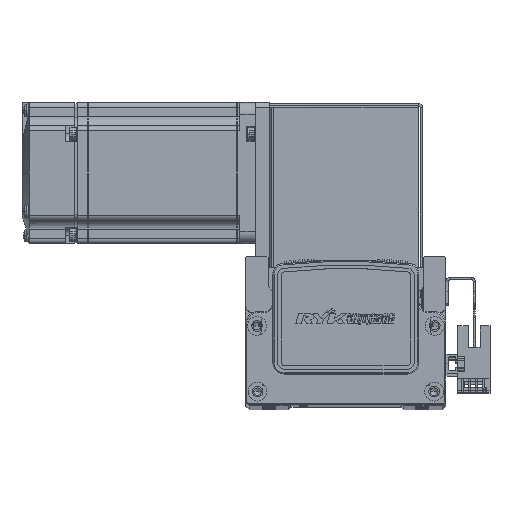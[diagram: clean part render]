
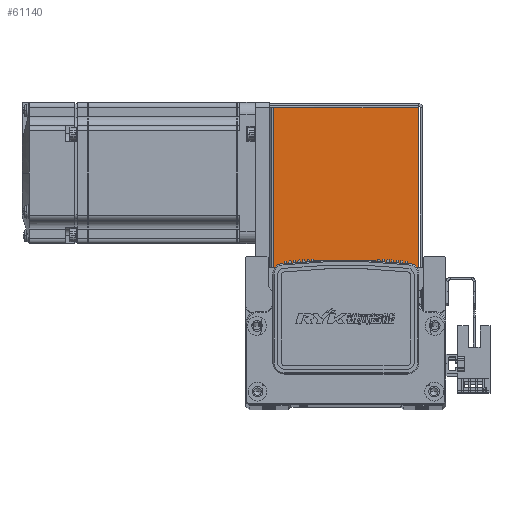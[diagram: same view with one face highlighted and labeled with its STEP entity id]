
A CAD part, top view. The second image highlights one B-rep face of the part: STEP entity #61140.
In plain terms, the highlighted planar face has unit normal (0, 0, 1).
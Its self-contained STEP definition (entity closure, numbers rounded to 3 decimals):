
#1564 = VERTEX_POINT ( 'NONE', #4624 ) ;
#1677 = VERTEX_POINT ( 'NONE', #4829 ) ;
#1679 = VERTEX_POINT ( 'NONE', #4818 ) ;
#1684 = VERTEX_POINT ( 'NONE', #4798 ) ;
#4624 = CARTESIAN_POINT ( 'NONE',  ( 30.763, 0.737, 35. ) ) ;
#4798 = CARTESIAN_POINT ( 'NONE',  ( -30.793, 68.5, 35. ) ) ;
#4818 = CARTESIAN_POINT ( 'NONE',  ( 30.763, 68.5, 35. ) ) ;
#4829 = CARTESIAN_POINT ( 'NONE',  ( -30.793, 0.737, 35. ) ) ;
#9490 = EDGE_LOOP ( 'NONE', ( #17459, #17514, #17432, #17482 ) ) ;
#11764 = FACE_OUTER_BOUND ( 'NONE', #9490, .T. ) ;
#15515 = DIRECTION ( 'NONE',  ( -1., 0., 0. ) ) ;
#15516 = CARTESIAN_POINT ( 'NONE',  ( 0., 0., 35. ) ) ;
#15558 = PLANE ( 'NONE',  #38018 ) ;
#15571 = DIRECTION ( 'NONE',  ( 0., 0., -1. ) ) ;
#17432 = ORIENTED_EDGE ( 'NONE', *, *, #36005, .F. ) ;
#17459 = ORIENTED_EDGE ( 'NONE', *, *, #35986, .T. ) ;
#17482 = ORIENTED_EDGE ( 'NONE', *, *, #36013, .F. ) ;
#17514 = ORIENTED_EDGE ( 'NONE', *, *, #36103, .T. ) ;
#35986 = EDGE_CURVE ( 'NONE', #1564, #1679, #50159, .T. ) ;
#36005 = EDGE_CURVE ( 'NONE', #1677, #1684, #50172, .T. ) ;
#36013 = EDGE_CURVE ( 'NONE', #1564, #1677, #50206, .T. ) ;
#36103 = EDGE_CURVE ( 'NONE', #1679, #1684, #50371, .T. ) ;
#38018 = AXIS2_PLACEMENT_3D ( 'NONE', #15516, #15571, #15515 ) ;
#48793 = CARTESIAN_POINT ( 'NONE',  ( 30.763, 0.737, 35. ) ) ;
#48796 = DIRECTION ( 'NONE',  ( 0., 1., 0. ) ) ;
#48843 = CARTESIAN_POINT ( 'NONE',  ( -30.793, 0., 35. ) ) ;
#48847 = DIRECTION ( 'NONE',  ( 0., 1., 0. ) ) ;
#48868 = CARTESIAN_POINT ( 'NONE',  ( -32.5, 0.737, 35. ) ) ;
#48899 = DIRECTION ( 'NONE',  ( -1., 0., 0. ) ) ;
#49077 = DIRECTION ( 'NONE',  ( -1., 0., 0. ) ) ;
#49113 = CARTESIAN_POINT ( 'NONE',  ( 0., 68.5, 35. ) ) ;
#50139 = VECTOR ( 'NONE', #48847, 1000. ) ;
#50142 = VECTOR ( 'NONE', #48796, 1000. ) ;
#50159 = LINE ( 'NONE', #48793, #50142 ) ;
#50172 = LINE ( 'NONE', #48843, #50139 ) ;
#50206 = LINE ( 'NONE', #48868, #50207 ) ;
#50207 = VECTOR ( 'NONE', #48899, 1000. ) ;
#50328 = VECTOR ( 'NONE', #49077, 1000. ) ;
#50371 = LINE ( 'NONE', #49113, #50328 ) ;
#61140 = ADVANCED_FACE ( 'NONE', ( #11764 ), #15558, .F. ) ;
